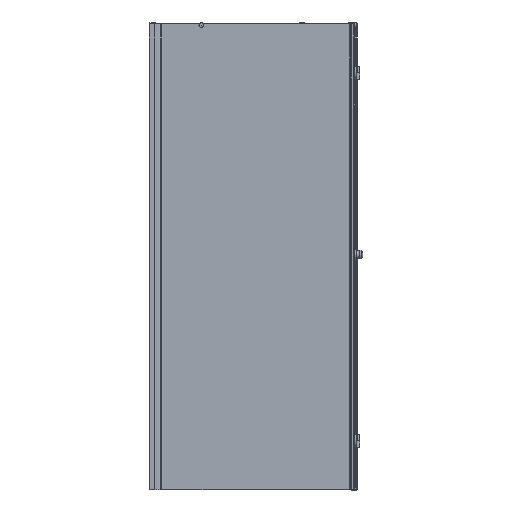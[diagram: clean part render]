
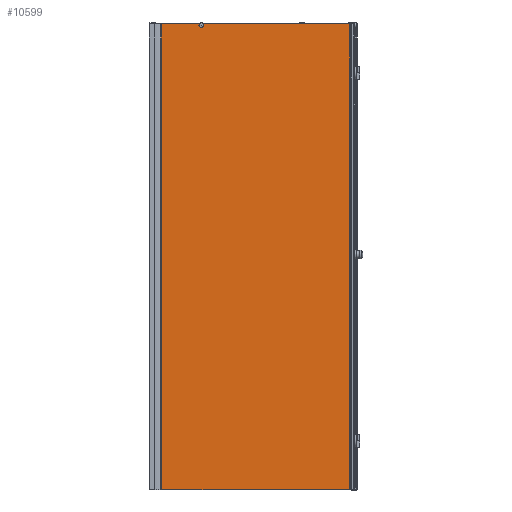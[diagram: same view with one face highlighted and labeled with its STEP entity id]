
A CAD part, left-side view. The second image highlights one B-rep face of the part: STEP entity #10599.
In plain terms, the highlighted planar face has unit normal (-1, 0, 0).
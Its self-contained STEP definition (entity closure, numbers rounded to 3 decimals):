
#339=LINE($,#15942,#1414);
#639=LINE($,#16938,#1714);
#640=LINE($,#16940,#1715);
#641=LINE($,#16942,#1716);
#642=LINE($,#16944,#1717);
#643=LINE($,#16946,#1718);
#644=LINE($,#16947,#1719);
#645=LINE($,#16949,#1720);
#646=LINE($,#16951,#1721);
#647=LINE($,#16952,#1722);
#1414=VECTOR($,#12661,164.716);
#1714=VECTOR($,#13393,2000.);
#1715=VECTOR($,#13394,43.);
#1716=VECTOR($,#13395,1.);
#1717=VECTOR($,#13396,852.4);
#1718=VECTOR($,#13397,1.);
#1719=VECTOR($,#13398,0.019);
#1720=VECTOR($,#13399,1.419);
#1721=VECTOR($,#13400,1998.);
#1722=VECTOR($,#13401,627.423);
#2723=FACE_OUTER_BOUND($,#3347,.T.);
#3347=EDGE_LOOP($,(#7689,#7690,#7691,#7692,#7693,#7694,#7695,#7696,#7697,
#7698,#7699,#7700));
#3794=CIRCLE($,#11177,10.);
#3856=CIRCLE($,#11337,2.);
#4274=VERTEX_POINT($,#15853);
#4275=VERTEX_POINT($,#15854);
#4307=VERTEX_POINT($,#15940);
#4528=VERTEX_POINT($,#16625);
#4529=VERTEX_POINT($,#16626);
#4596=VERTEX_POINT($,#16937);
#4597=VERTEX_POINT($,#16939);
#4598=VERTEX_POINT($,#16941);
#4599=VERTEX_POINT($,#16943);
#4600=VERTEX_POINT($,#16945);
#4601=VERTEX_POINT($,#16948);
#4602=VERTEX_POINT($,#16950);
#5286=EDGE_CURVE($,#4274,#4275,#3794,.T.);
#5329=EDGE_CURVE($,#4307,#4274,#339,.T.);
#5629=EDGE_CURVE($,#4528,#4529,#3856,.T.);
#5739=EDGE_CURVE($,#4596,#4307,#639,.T.);
#5740=EDGE_CURVE($,#4597,#4596,#640,.T.);
#5741=EDGE_CURVE($,#4597,#4598,#641,.T.);
#5742=EDGE_CURVE($,#4599,#4598,#642,.T.);
#5743=EDGE_CURVE($,#4600,#4599,#643,.T.);
#5744=EDGE_CURVE($,#4600,#4529,#644,.T.);
#5745=EDGE_CURVE($,#4601,#4528,#645,.T.);
#5746=EDGE_CURVE($,#4602,#4601,#646,.T.);
#5747=EDGE_CURVE($,#4275,#4602,#647,.T.);
#7689=ORIENTED_EDGE($,*,*,#5286,.F.);
#7690=ORIENTED_EDGE($,*,*,#5329,.F.);
#7691=ORIENTED_EDGE($,*,*,#5739,.F.);
#7692=ORIENTED_EDGE($,*,*,#5740,.F.);
#7693=ORIENTED_EDGE($,*,*,#5741,.T.);
#7694=ORIENTED_EDGE($,*,*,#5742,.F.);
#7695=ORIENTED_EDGE($,*,*,#5743,.F.);
#7696=ORIENTED_EDGE($,*,*,#5744,.T.);
#7697=ORIENTED_EDGE($,*,*,#5629,.F.);
#7698=ORIENTED_EDGE($,*,*,#5745,.F.);
#7699=ORIENTED_EDGE($,*,*,#5746,.F.);
#7700=ORIENTED_EDGE($,*,*,#5747,.F.);
#9474=PLANE($,#11414);
#10599=ADVANCED_FACE($,(#2723),#9474,.F.);
#11177=AXIS2_PLACEMENT_3D($,#15855,#12584,#12585);
#11337=AXIS2_PLACEMENT_3D($,#16627,#13174,#13175);
#11414=AXIS2_PLACEMENT_3D($,#16936,#13391,#13392);
#12584=DIRECTION('center_axis',(-1.,0.,0.));
#12585=DIRECTION('ref_axis',(0.,-1.,0.));
#12661=DIRECTION($,(0.,-1.,0.));
#13174=DIRECTION('center_axis',(-1.,0.,0.));
#13175=DIRECTION('ref_axis',(0.,0.707,0.707));
#13391=DIRECTION('center_axis',(1.,0.,0.));
#13392=DIRECTION('ref_axis',(0.,-1.,0.));
#13393=DIRECTION($,(0.,0.,1.));
#13394=DIRECTION($,(0.,-1.,0.));
#13395=DIRECTION($,(0.,0.,-1.));
#13396=DIRECTION($,(0.,1.,0.));
#13397=DIRECTION($,(0.,0.,-1.));
#13398=DIRECTION($,(0.,-1.,0.));
#13399=DIRECTION($,(0.,-1.,0.));
#13400=DIRECTION($,(0.,0.,-1.));
#13401=DIRECTION($,(0.,-1.,0.));
#15853=CARTESIAN_POINT('',(1246.019,631.24,1485.944));
#15854=CARTESIAN_POINT('',(1246.019,613.379,1485.944));
#15855=CARTESIAN_POINT('Origin',(1246.019,622.309,1481.444));
#15940=CARTESIAN_POINT('',(1246.019,795.956,1485.944));
#15942=CARTESIAN_POINT($,(1246.019,838.956,1485.944));
#16625=CARTESIAN_POINT('',(1246.019,-15.463,-512.056));
#16626=CARTESIAN_POINT('',(1246.019,-13.463,-514.056));
#16627=CARTESIAN_POINT('Origin',(1246.019,-15.463,-514.056));
#16936=CARTESIAN_POINT('Origin',(1246.019,838.956,1485.944));
#16937=CARTESIAN_POINT('',(1246.019,795.956,-514.056));
#16938=CARTESIAN_POINT($,(1246.019,795.956,1485.944));
#16939=CARTESIAN_POINT('',(1246.019,838.956,-514.056));
#16940=CARTESIAN_POINT($,(1246.019,830.961,-514.056));
#16941=CARTESIAN_POINT('',(1246.019,838.956,-515.056));
#16942=CARTESIAN_POINT($,(1246.019,838.956,1485.944));
#16943=CARTESIAN_POINT('',(1246.019,-13.444,-515.056));
#16944=CARTESIAN_POINT($,(1246.019,-13.444,-515.056));
#16945=CARTESIAN_POINT('',(1246.019,-13.444,-514.056));
#16946=CARTESIAN_POINT($,(1246.019,-13.444,-514.056));
#16947=CARTESIAN_POINT($,(1246.019,838.956,-514.056));
#16948=CARTESIAN_POINT('',(1246.019,-14.044,-512.056));
#16949=CARTESIAN_POINT($,(1246.019,410.906,-512.056));
#16950=CARTESIAN_POINT('',(1246.019,-14.044,1485.944));
#16951=CARTESIAN_POINT($,(1246.019,-14.044,1485.944));
#16952=CARTESIAN_POINT($,(1246.019,838.956,1485.944));
